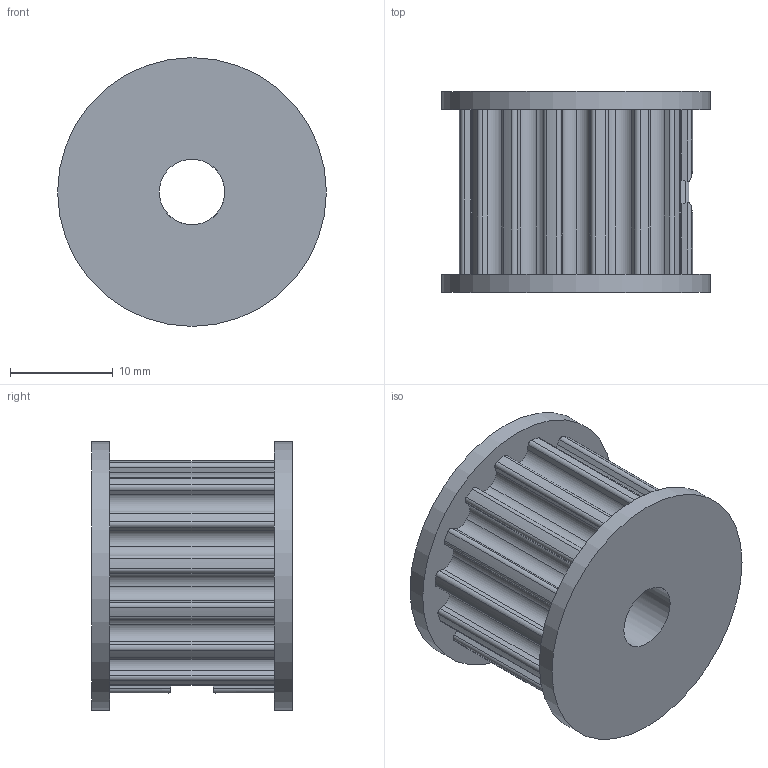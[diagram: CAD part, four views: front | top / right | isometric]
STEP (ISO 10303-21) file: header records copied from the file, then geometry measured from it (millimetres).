
FILE_DESCRIPTION(/* description */ ('www.motedis.com/part/TP-HTD5M-15-15T-6.35B','CAx-IF Rec.Pracs.---Representation and Presentation of Product Manufacturing Information (PMI)---4.0---2014-10-13'),/* implementation_level */ '2;1');
FILE_NAME(/* name */ 'Motedis TP-HTD5M-15-15T-6.35B.stp',/* time_stamp */ '2026-03-23T08:38:07+01:00',/* author */ ('Motedis'),/* organization */ ('Motedis GmbH'),/* preprocessor_version */ 'ST-DEVELOPER v20.1',/* originating_system */ 'Autodesk Inventor 2026',/* authorisation */ 'Motedis GmbH');
FILE_SCHEMA (('AP242_MANAGED_MODEL_BASED_3D_ENGINEERING_MIM_LF { 1 0 10303 442 2 1 4 }'));
Length unit declared in the file: millimetre
Products named in the file (1): Motedis TP-HTD5M-15-15T
Bounding box: 26.1 x 19.5 x 26.1 mm (x, y, z)
Volume: 6355 mm3; surface area: 3858.7 mm2
Topology: 1 solids, 1 shells, 127 faces, 378 edges, 252 vertices
Faces by surface type: cylinder 89, plane 38
Full cylindrical faces by diameter (mm): 4.5 x2, 6.35 x1, 26.1 x2
Entity records: 5809 total; most frequent: CARTESIAN_POINT 1475, DIRECTION 953, ORIENTED_EDGE 756, AXIS2_PLACEMENT_3D 384, EDGE_CURVE 378, VERTEX_POINT 252, CIRCLE 231, LINE 185
